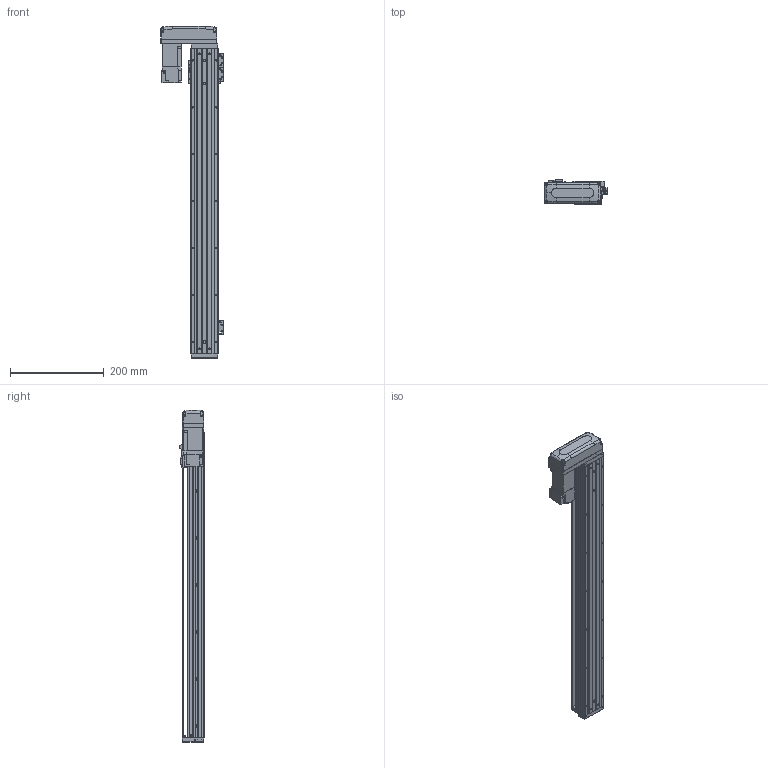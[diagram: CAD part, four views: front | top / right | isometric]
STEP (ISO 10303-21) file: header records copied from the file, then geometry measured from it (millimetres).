
FILE_DESCRIPTION (( 'STEP AP203' ), '1' );
FILE_NAME ('KTHA50-550-BR-M10-C4L.step', '2022-03-19T07:16:05', ( '微软用户' ), ( '微软中国' ), 'SwSTEP 2.0', 'SolidWorks 2020', '' );
FILE_SCHEMA (( 'CONFIG_CONTROL_DESIGN' ));
Length unit declared in the file: millimetre
Products named in the file (18): EE_SX911P_R; HG-KR13（三菱）; GBT77-2000 M3×3; CTHA50-015-2_CTHA60-015-2; KTHA50-001_650; GBT 70.1-M3℅6; CTHA60-033; KTHA50-002; CTHA60-017; GBT 70.1-M3×15; KTHA50-004; GBT 70.1-M4×12; KTHA50-550-BR-M10-C4L; KTHA50-005; CTHA60-021; CTHA60-016; GB¨uT 70.2-M3¡Á6_M3¡Á6; GBT 70.3-M3℅6
Assembly tree (53 placements, depth 2):
  KTHA50-550-BR-M10-C4L
    KTHA50-001_650
    KTHA50-002
    KTHA50-004
    KTHA50-005
    GB¨uT 70.2-M3¡Á6_M3¡Á6  x6
    EE_SX911P_R  x3
    GBT77-2000 M3×3  x6
    GBT 70.1-M3℅6  x6
    CTHA60-017  x3
    GBT 70.1-M4×12  x10
    CTHA60-016  x2
    CTHA60-021  x2
    GBT 70.3-M3℅6  x4
    HG-KR13（三菱）
    CTHA50-015-2_CTHA60-015-2
    CTHA60-033
    GBT 70.1-M3×15  x4
Bounding box: 133.82 x 52.3 x 707 mm (x, y, z)
Volume: 1422466.2 mm3; surface area: 348308 mm2
Topology: 56 solids, 56 shells, 2283 faces, 5407 edges, 3316 vertices
Faces by surface type: plane 1276, cylinder 556, cone 309, torus 100, bspline 26, sphere 16
Entity records: 38881 total; most frequent: CARTESIAN_POINT 7346, DIRECTION 6075, ORIENTED_EDGE 5826, EDGE_CURVE 2913, AXIS2_PLACEMENT_3D 2061, VECTOR 1953, LINE 1953, VERTEX_POINT 1830
